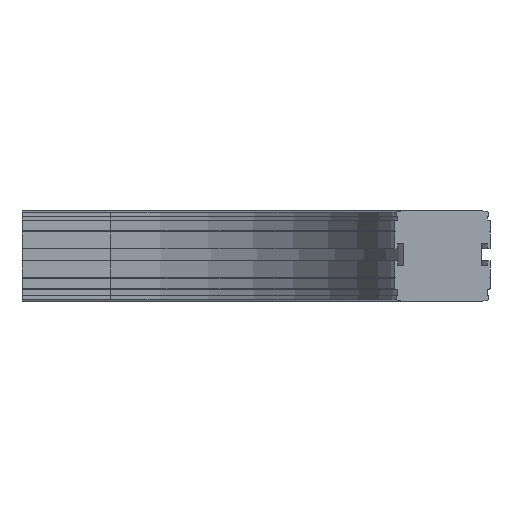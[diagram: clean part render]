
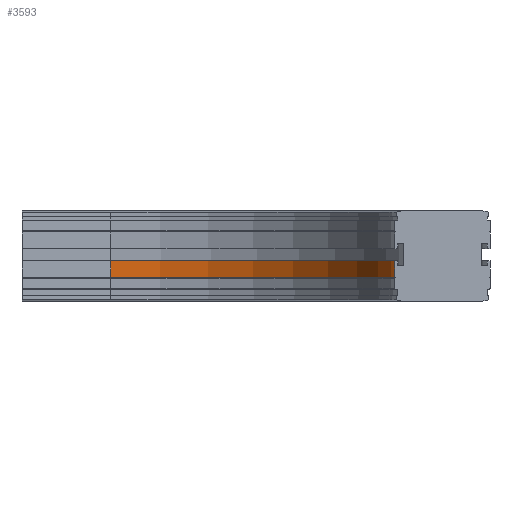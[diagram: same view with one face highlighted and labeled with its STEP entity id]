
A CAD part, front view. The second image highlights one B-rep face of the part: STEP entity #3593.
In plain terms, the highlighted cylindrical face has radius 257 mm (diameter 514 mm), a partial arc.
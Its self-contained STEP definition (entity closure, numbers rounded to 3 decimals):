
#2261=CARTESIAN_POINT('',(337.0,-300.,-60.));
#2262=VERTEX_POINT('',#2261);
#2292=CARTESIAN_POINT('',(337.0,-300.,-45.));
#2293=VERTEX_POINT('',#2292);
#2300=CARTESIAN_POINT('',(337.0,-300.,-60.));
#2301=DIRECTION('',(0.0,0.0,1.0));
#2302=VECTOR('',#2301,15.0);
#2303=LINE('',#2300,#2302);
#2304=EDGE_CURVE('',#2262,#2293,#2303,.T.);
#3550=CARTESIAN_POINT('',(80.0,-43.0,-60.));
#3551=VERTEX_POINT('',#3550);
#3552=CARTESIAN_POINT('',(80.0,-300.0,-60.));
#3553=DIRECTION('',(0.0,0.0,-1.0));
#3554=DIRECTION('',(-1.0,0.0,0.0));
#3555=AXIS2_PLACEMENT_3D('',#3552,#3553,#3554);
#3556=CIRCLE('',#3555,257.0);
#3557=EDGE_CURVE('',#3551,#2262,#3556,.T.);
#3569=CARTESIAN_POINT('',(80.0,-300.0,-52.5));
#3570=DIRECTION('',(0.0,0.0,-1.0));
#3571=DIRECTION('',(-1.0,0.0,0.0));
#3572=AXIS2_PLACEMENT_3D('',#3569,#3570,#3571);
#3573=CYLINDRICAL_SURFACE('',#3572,257.0);
#3574=ORIENTED_EDGE('',*,*,#2304,.T.);
#3575=CARTESIAN_POINT('',(80.0,-43.0,-45.));
#3576=VERTEX_POINT('',#3575);
#3577=CARTESIAN_POINT('',(80.0,-300.0,-45.));
#3578=DIRECTION('',(0.0,0.0,-1.0));
#3579=DIRECTION('',(-1.0,0.0,0.0));
#3580=AXIS2_PLACEMENT_3D('',#3577,#3578,#3579);
#3581=CIRCLE('',#3580,257.0);
#3582=EDGE_CURVE('',#3576,#2293,#3581,.T.);
#3583=ORIENTED_EDGE('',*,*,#3582,.F.);
#3584=CARTESIAN_POINT('',(80.0,-43.0,-60.));
#3585=DIRECTION('',(0.0,0.0,1.0));
#3586=VECTOR('',#3585,15.0);
#3587=LINE('',#3584,#3586);
#3588=EDGE_CURVE('',#3551,#3576,#3587,.T.);
#3589=ORIENTED_EDGE('',*,*,#3588,.F.);
#3590=ORIENTED_EDGE('',*,*,#3557,.T.);
#3591=EDGE_LOOP('',(#3574,#3583,#3589,#3590));
#3592=FACE_OUTER_BOUND('',#3591,.T.);
#3593=ADVANCED_FACE('',(#3592),#3573,.F.);
